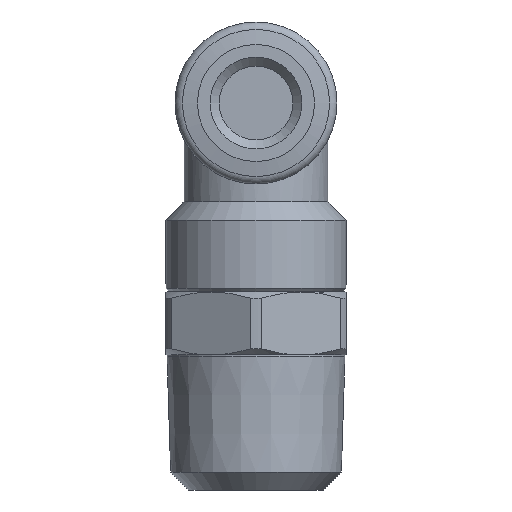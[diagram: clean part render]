
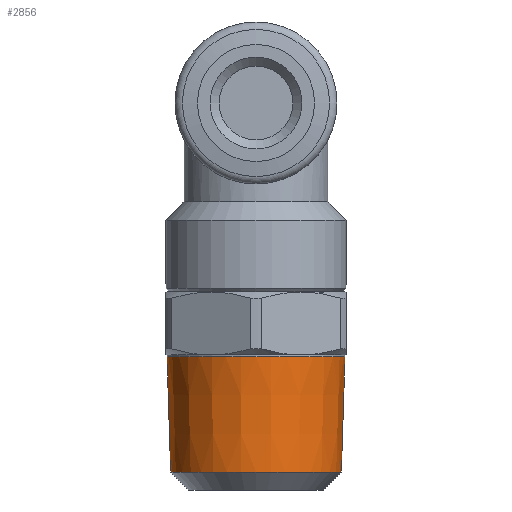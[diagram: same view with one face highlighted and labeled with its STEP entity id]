
A CAD part, left-side view. The second image highlights one B-rep face of the part: STEP entity #2856.
In plain terms, the highlighted conical face has half-angle 1.79 degrees and reference radius 4.942 mm.
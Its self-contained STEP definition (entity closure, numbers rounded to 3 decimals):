
#1232=CONICAL_SURFACE('',#2675,4.942,1.79);
#1295=ORIENTED_EDGE('',*,*,#1651,.F.);
#1296=ORIENTED_EDGE('',*,*,#1652,.F.);
#1493=CIRCLE('',#2676,4.742);
#1494=CIRCLE('',#2677,4.942);
#1566=VERTEX_POINT('',#2419);
#1567=VERTEX_POINT('',#2421);
#1651=EDGE_CURVE('',#1566,#1566,#1493,.T.);
#1652=EDGE_CURVE('',#1567,#1567,#1494,.T.);
#1776=EDGE_LOOP('',(#1295));
#1777=EDGE_LOOP('',(#1296));
#1898=FACE_BOUND('',#1776,.T.);
#1899=FACE_BOUND('',#1777,.T.);
#2066=DIRECTION('',(0.,1.,0.));
#2067=DIRECTION('',(0.,0.,1.));
#2068=DIRECTION('',(0.,-1.,0.));
#2069=DIRECTION('',(0.,0.,4.742));
#2070=DIRECTION('',(0.,1.,0.));
#2071=DIRECTION('',(0.,0.,-4.942));
#2418=CARTESIAN_POINT('',(26.356,13.396,0.));
#2419=CARTESIAN_POINT('',(26.356,6.996,4.742));
#2420=CARTESIAN_POINT('',(26.356,6.996,0.));
#2421=CARTESIAN_POINT('',(26.356,13.396,4.942));
#2422=CARTESIAN_POINT('',(26.356,13.396,0.));
#2675=AXIS2_PLACEMENT_3D('',#2418,#2066,#2067);
#2676=AXIS2_PLACEMENT_3D('',#2420,#2068,#2069);
#2677=AXIS2_PLACEMENT_3D('',#2422,#2070,#2071);
#2856=ADVANCED_FACE('',(#1898,#1899),#1232,.T.);
